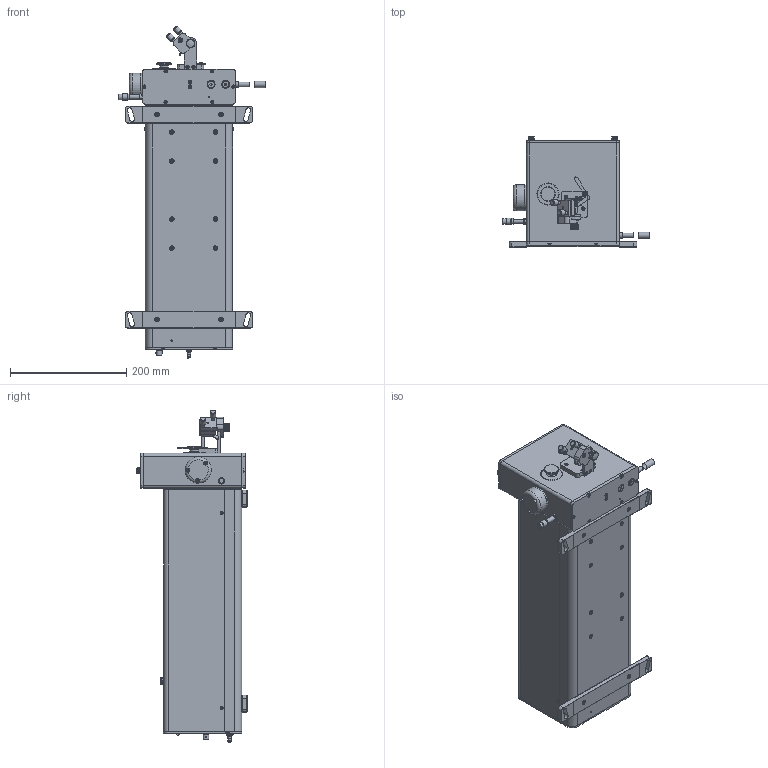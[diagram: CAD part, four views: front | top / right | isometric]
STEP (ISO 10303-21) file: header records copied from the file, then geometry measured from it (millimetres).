
FILE_DESCRIPTION(/* description */ (''),/* implementation_level */ '2;1');
FILE_NAME(/* name */ 'V:\CAD-Daten\_Verpackung\Geräte-Dummys\PulseCheck NG SM - Dummy2.stp',/* time_stamp */ '2021-02-11T13:57:12+01:00',/* author */ ('thomas'),/* organization */ (''),/* preprocessor_version */ 'ST-DEVELOPER v18.1',/* originating_system */ 'Autodesk Inventor 2021',/* authorisation */ '');
FILE_SCHEMA (('AUTOMOTIVE_DESIGN { 1 0 10303 214 3 1 1 }'));
Products named in the file (1): PulseCheck NG SM - Dummy2_Shrinkwrap_1
Bounding box: 252.5 x 189.8 x 571.52 mm (x, y, z)
Surface area: 601259.2 mm2 (no closed solid volume)
Topology: 0 solids, 155 shells, 2010 faces, 7112 edges, 5235 vertices
Faces by surface type: plane 1176, cylinder 552, cone 155, bspline 53, torus 48, sphere 26
Full cylindrical faces by diameter (mm): 1 x1, 1.567 x1, 1.6 x4, 1.8 x1, 2 x12, 2.1 x2, 2.2 x1, 2.459 x1, 3 x2, 3.048 x2, 3.242 x1, 3.302 x1, 3.7 x2, 3.8 x2, 3.9 x2, 4.5 x6, 5 x2, 5.5 x4, 6 x12, 6.3 x1, 6.6 x3, 7 x9, 7.7 x1, 7.8 x1, 8 x15, 8.2 x2, 8.3 x1, 9 x2, 9.6 x1, 9.8 x1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
Entity records: 91666 total; most frequent: CARTESIAN_POINT 30060, DIRECTION 11713, ORIENTED_EDGE 11593, EDGE_CURVE 7070, VERTEX_POINT 5235, AXIS2_PLACEMENT_3D 3933, LINE 3847, VECTOR 3847
